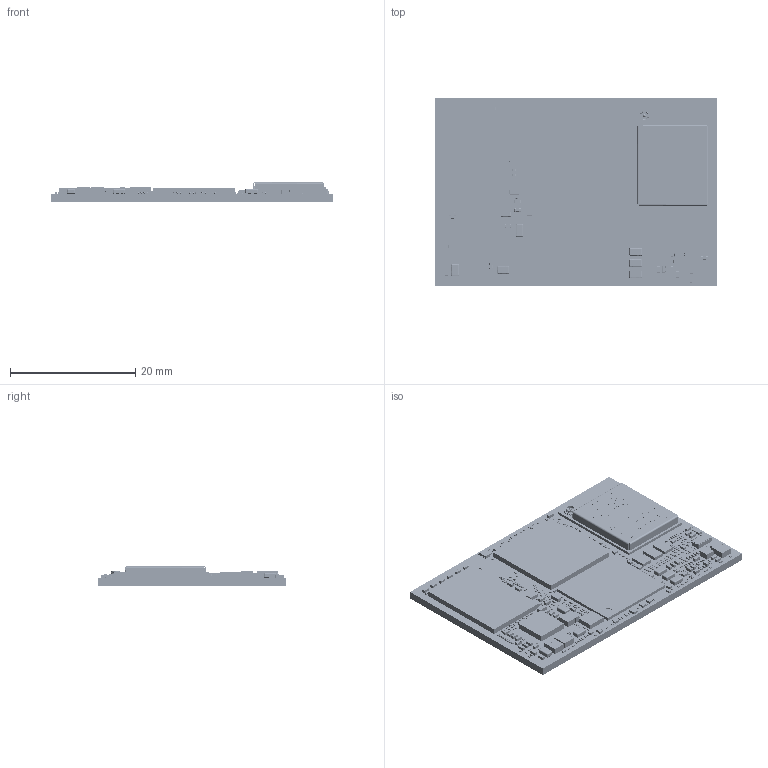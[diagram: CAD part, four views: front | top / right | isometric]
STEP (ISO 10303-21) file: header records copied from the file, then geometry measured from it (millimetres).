
FILE_DESCRIPTION(('Open CASCADE Model'),'2;1');
FILE_NAME('Open CASCADE Shape Model','2025-12-05T10:36:52',('Author'),( 'Open CASCADE'),'Open CASCADE STEP processor 7.5','Open CASCADE 7.5' ,'Unknown');
FILE_SCHEMA(('AUTOMOTIVE_DESIGN { 1 0 10303 214 1 1 1 1 }'));
Length unit declared in the file: millimetre
Products named in the file (608): PCB; Board; Open CASCADE STEP translator 7.5 1.1.1; R167; 01005_PAN; D1; 6344384048; R166; R125; Q12; CST3C_z90; Component1; Component2; Component3; Component4; R165; R164; R163; R162; R161; R160; R152; R151; R148; R146; C191; CAP0201 (0603); C190; R143; R138; R132; R131; R130; R129; R127; R126; R118; U14; SN74LVC1G08DPWR; R117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
Assembly tree (1001 placements, depth 4):
  PCB
    Board
      Open CASCADE STEP translator 7.5 1.1.1
    R167
      01005_PAN
    D1
      6344384048
    R166
      01005_PAN
    R125
      01005_PAN
    Q12
      CST3C_z90
        Component1
        Component2
        Component3
        Component4
    R165
      01005_PAN
    R164
      01005_PAN
    R163
      01005_PAN
    R162
      01005_PAN
    R161
      01005_PAN
    R160
      01005_PAN
    R152
      01005_PAN
    R151
      01005_PAN
    R148
      01005_PAN
    R146
      01005_PAN
    C191
      CAP0201 (0603)
    C190
      CAP0201 (0603)
    R143
      01005_PAN
    R138
      01005_PAN
    R132
      01005_PAN
    R131
      01005_PAN
    R130
      01005_PAN
    R129
      01005_PAN
    R127
      01005_PAN
    R126
      01005_PAN
    R118
      01005_PAN
    U14
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Bounding box: 45 x 30 x 3.08 mm (x, y, z)
Volume: 2159.2 mm3; surface area: 5983.4 mm2
Topology: 1630 solids, 2145 shells, 19640 faces, 44870 edges, 28063 vertices
Faces by surface type: plane 15639, cylinder 2137, bspline 1153, sphere 701, cone 10
Full cylindrical faces by diameter (mm): 0.032 x1, 0.099 x1, 0.255 x1, 1.438 x1
Entity records: 240371 total; most frequent: CARTESIAN_POINT 75335, ORIENTED_EDGE 30083, DIRECTION 28177, EDGE_CURVE 15283, LINE 11793, VECTOR 11793, VERTEX_POINT 10249, AXIS2_PLACEMENT_3D 8192
